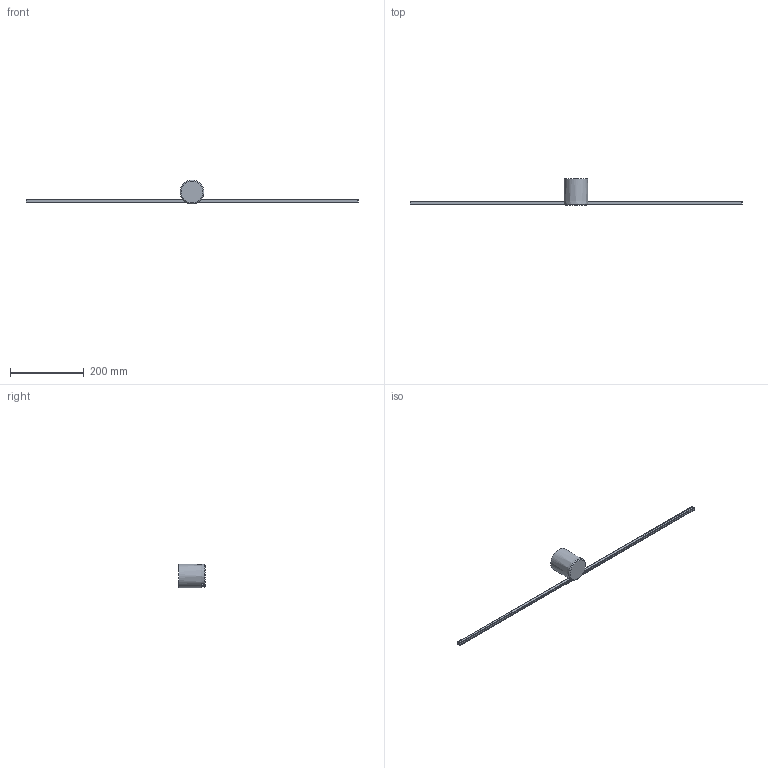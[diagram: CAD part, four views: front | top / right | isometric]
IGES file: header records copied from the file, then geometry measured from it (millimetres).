
Start section: SolidWorks IGES file using analytic representation for surfaces
Global section: file name: X:\PRODUKT\Modele 3D_WWW\_KOLEKCJE WWW\PIN-LED\PIN-LED-M-8128\PIN-LED-M-8128.IGS; native system: SolidWorks 2021; preprocessor: SolidWorks 2021; author: gabriela.tworek; date: 221219.112801; units: millimetre
Bounding box: 901.2 x 72 x 64 mm (x, y, z)
Surface area: 87059.3 mm2 (no closed solid volume)
Topology: 0 solids, 0 shells, 57 faces, 300 edges, 298 vertices
Faces by surface type: bspline 55, revolution 2
